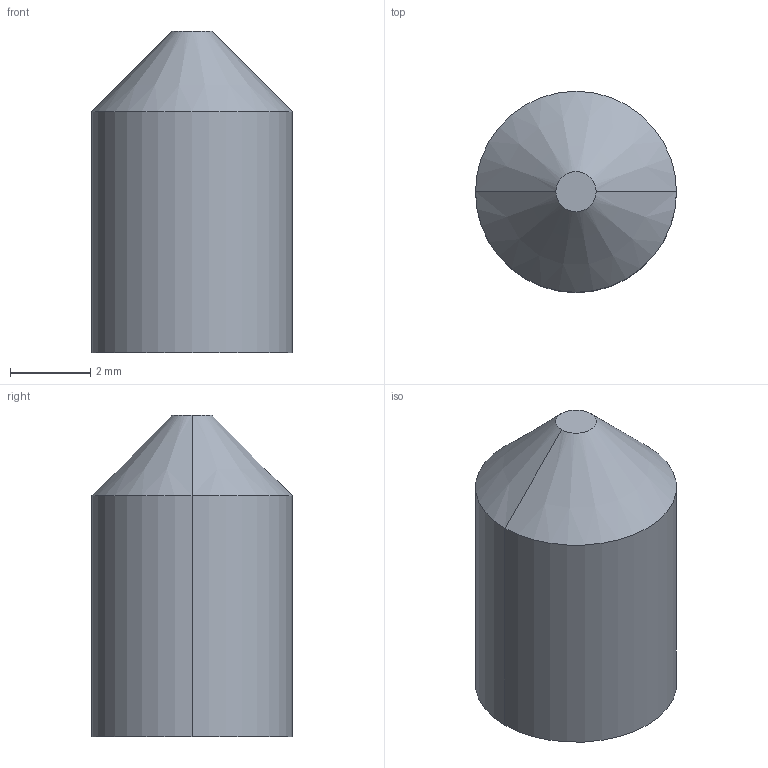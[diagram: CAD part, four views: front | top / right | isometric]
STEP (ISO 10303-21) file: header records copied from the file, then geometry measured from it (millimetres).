
FILE_DESCRIPTION (( 'STEP AP203' ), '1' );
FILE_NAME ('5078.STEP', '2016-04-23T06:45:19', ( '' ), ( '' ), 'SwSTEP 2.0', 'SolidWorks 2014', '' );
FILE_SCHEMA (( 'CONFIG_CONTROL_DESIGN' ));
Length unit declared in the file: millimetre
Products named in the file (1): 5078
Bounding box: 5 x 5 x 8 mm (x, y, z)
Volume: 117.8 mm3; surface area: 167.3 mm2
Topology: 1 solids, 1 shells, 13 faces, 28 edges, 18 vertices
Faces by surface type: plane 9, cone 2, cylinder 2
Entity records: 429 total; most frequent: DIRECTION 62, CARTESIAN_POINT 60, ORIENTED_EDGE 56, EDGE_CURVE 28, VECTOR 22, LINE 22, AXIS2_PLACEMENT_3D 20, VERTEX_POINT 18
